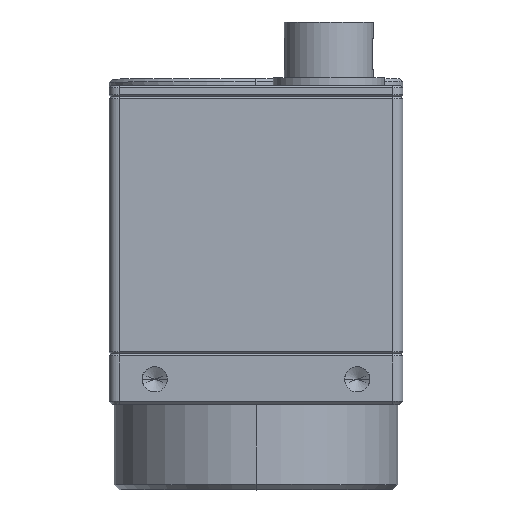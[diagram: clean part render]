
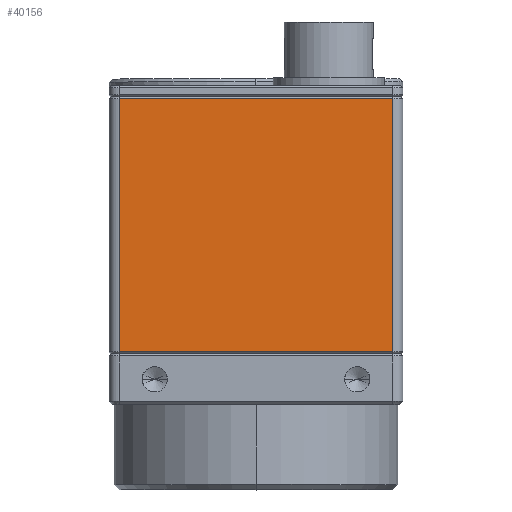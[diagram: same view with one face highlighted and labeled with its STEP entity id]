
A CAD part, top view. The second image highlights one B-rep face of the part: STEP entity #40156.
In plain terms, the highlighted planar face has unit normal (0, 0, 1).
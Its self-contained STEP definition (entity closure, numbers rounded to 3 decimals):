
#1475 = VECTOR ( 'NONE', #30647, 1000. ) ;
#4870 = ORIENTED_EDGE ( 'NONE', *, *, #38951, .T. ) ;
#5157 = EDGE_CURVE ( 'NONE', #17215, #11180, #30781, .T. ) ;
#5527 = CARTESIAN_POINT ( 'NONE',  ( -13.5, 20.2, 14.5 ) ) ;
#5816 = VECTOR ( 'NONE', #29538, 1000. ) ;
#6139 = DIRECTION ( 'NONE',  ( 1., 0., 0. ) ) ;
#6586 = CARTESIAN_POINT ( 'NONE',  ( 13.5, -4.8, 14.5 ) ) ;
#10012 = DIRECTION ( 'NONE',  ( 0., 0., -1. ) ) ;
#10466 = CARTESIAN_POINT ( 'NONE',  ( -13.5, -4.8, 14.5 ) ) ;
#11030 = CARTESIAN_POINT ( 'NONE',  ( -13.5, 20.2, 14.5 ) ) ;
#11180 = VERTEX_POINT ( 'NONE', #5527 ) ;
#13666 = FACE_OUTER_BOUND ( 'NONE', #38098, .T. ) ;
#15790 = EDGE_CURVE ( 'NONE', #11180, #30432, #16496, .T. ) ;
#16496 = LINE ( 'NONE', #33433, #5816 ) ;
#17215 = VERTEX_POINT ( 'NONE', #19482 ) ;
#18431 = VECTOR ( 'NONE', #32124, 1000. ) ;
#19482 = CARTESIAN_POINT ( 'NONE',  ( 13.5, 20.2, 14.5 ) ) ;
#21067 = VECTOR ( 'NONE', #6139, 1000. ) ;
#22078 = AXIS2_PLACEMENT_3D ( 'NONE', #26361, #10012, #23998 ) ;
#22101 = ORIENTED_EDGE ( 'NONE', *, *, #15790, .T. ) ;
#23998 = DIRECTION ( 'NONE',  ( -1., 0., 0. ) ) ;
#24253 = CARTESIAN_POINT ( 'NONE',  ( -14.5, -4.8, 14.5 ) ) ;
#24491 = EDGE_CURVE ( 'NONE', #30432, #30473, #44640, .T. ) ;
#26361 = CARTESIAN_POINT ( 'NONE',  ( -14.5, 20.4, 14.5 ) ) ;
#28737 = ORIENTED_EDGE ( 'NONE', *, *, #5157, .T. ) ;
#29538 = DIRECTION ( 'NONE',  ( 0., -1., 0. ) ) ;
#30432 = VERTEX_POINT ( 'NONE', #10466 ) ;
#30473 = VERTEX_POINT ( 'NONE', #6586 ) ;
#30647 = DIRECTION ( 'NONE',  ( 0., 1., 0. ) ) ;
#30781 = LINE ( 'NONE', #11030, #18431 ) ;
#31442 = ORIENTED_EDGE ( 'NONE', *, *, #24491, .T. ) ;
#32124 = DIRECTION ( 'NONE',  ( -1., 0., 0. ) ) ;
#33433 = CARTESIAN_POINT ( 'NONE',  ( -13.5, 20.4, 14.5 ) ) ;
#38098 = EDGE_LOOP ( 'NONE', ( #22101, #31442, #4870, #28737 ) ) ;
#38951 = EDGE_CURVE ( 'NONE', #30473, #17215, #41384, .T. ) ;
#40156 = ADVANCED_FACE ( 'NONE', ( #13666 ), #41390, .F. ) ;
#41384 = LINE ( 'NONE', #41836, #1475 ) ;
#41390 = PLANE ( 'NONE',  #22078 ) ;
#41836 = CARTESIAN_POINT ( 'NONE',  ( 13.5, 20.4, 14.5 ) ) ;
#44640 = LINE ( 'NONE', #24253, #21067 ) ;
